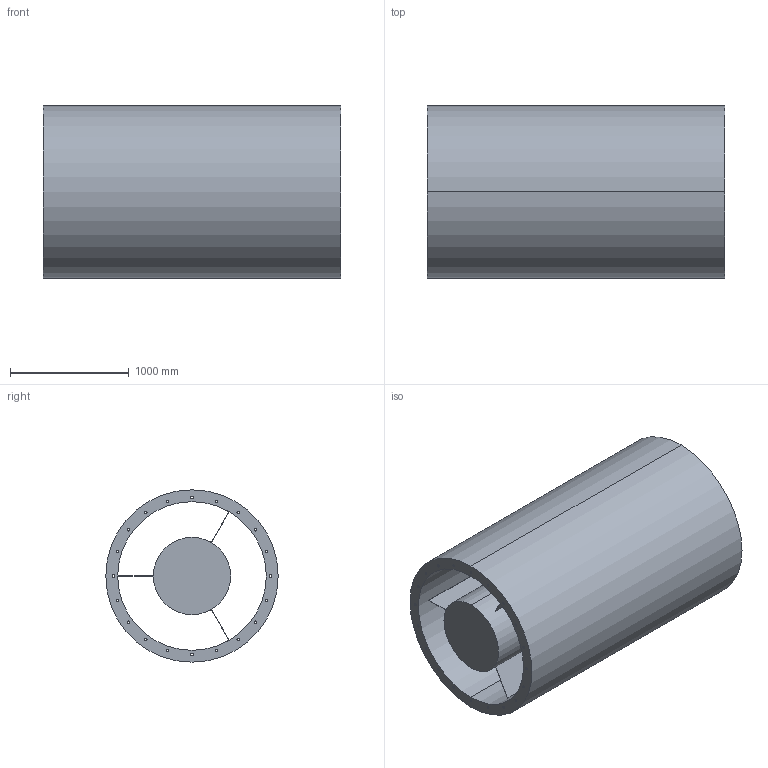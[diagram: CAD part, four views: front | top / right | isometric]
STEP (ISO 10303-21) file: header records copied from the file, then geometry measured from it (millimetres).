
FILE_DESCRIPTION(('STEP AP214'),'1');
FILE_NAME('accessory_5211816400.stp','2017-10-09T11:37:44',('TraceParts'),('TraceParts S.A.'),'Spatial InterOp 3D',' ',' ');
FILE_SCHEMA(('automotive_design'));
Length unit declared in the file: millimetre
Products named in the file (1): accessory_5211816400
Bounding box: 2500 x 1450 x 1450 mm (x, y, z)
Volume: 1800124976.2 mm3; surface area: 33809773.1 mm2
Topology: 1 solids, 1 shells, 64 faces, 179 edges, 119 vertices
Faces by surface type: cylinder 46, plane 16, torus 2
Entity records: 2744 total; most frequent: DIRECTION 418, CARTESIAN_POINT 363, ORIENTED_EDGE 358, EDGE_CURVE 179, AXIS2_PLACEMENT_3D 174, VERTEX_POINT 119, EDGE_LOOP 112, CIRCLE 109
